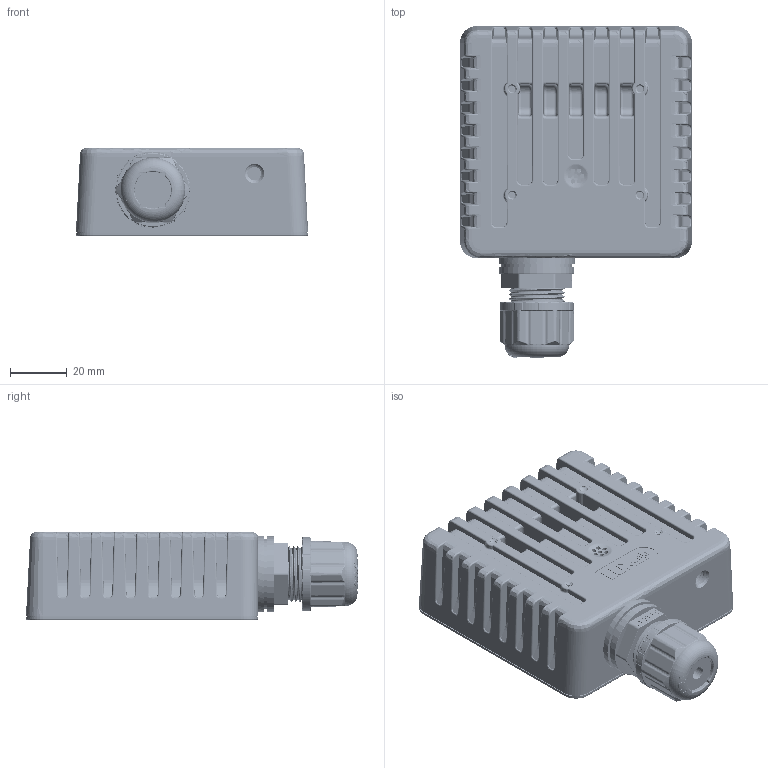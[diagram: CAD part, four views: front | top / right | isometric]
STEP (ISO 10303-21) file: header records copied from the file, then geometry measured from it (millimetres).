
FILE_DESCRIPTION(/* description */ (''),/* implementation_level */ '2;1');
FILE_NAME(/* name */ 'OAK-1-POE-ME-26Mat2021.stp',/* time_stamp */ '2021-05-26T22:40:08+08:00',/* author */ (''),/* organization */ (''),/* preprocessor_version */ 'ST-DEVELOPER v16.7',/* originating_system */ 'SIEMENS PLM Software NX 12.0',/* authorisation */ '');
FILE_SCHEMA (('AUTOMOTIVE_DESIGN { 1 0 10303 214 3 1 1 1 }'));
Products named in the file (1): chua358CCDCAlaht
Bounding box: 81.85 x 117.05 x 31 mm (x, y, z)
Volume: 114651 mm3; surface area: 85205.7 mm2
Topology: 1224 solids, 1230 shells, 18497 faces, 45066 edges, 29073 vertices
Faces by surface type: plane 13166, cylinder 3647, bspline 744, cone 353, extrusion 227, torus 184, sphere 176
Full cylindrical faces by diameter (mm): 0.203 x4, 0.254 x11, 0.3 x4, 0.35 x1, 0.37 x1, 0.5 x2, 0.8 x5, 0.86 x2, 0.9 x14, 1.02 x4, 1.5 x19, 1.7 x2, 2 x2, 2.05 x4, 2.4 x2, 2.6 x2, 2.65 x4, 2.75 x4, 3 x3, 3.2 x2, 4.5 x2, 4.8 x1, 5.6 x4, 5.65 x4, 6.25 x1, 6.9 x1, 7.25 x1, 7.7 x1, 8.02 x1, 8.08 x1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
Entity records: 673558 total; most frequent: CARTESIAN_POINT 229261, ORIENTED_EDGE 89118, DIRECTION 83422, EDGE_CURVE 44559, VECTOR 33778, LINE 33551, VERTEX_POINT 28950, AXIS2_PLACEMENT_3D 24822
